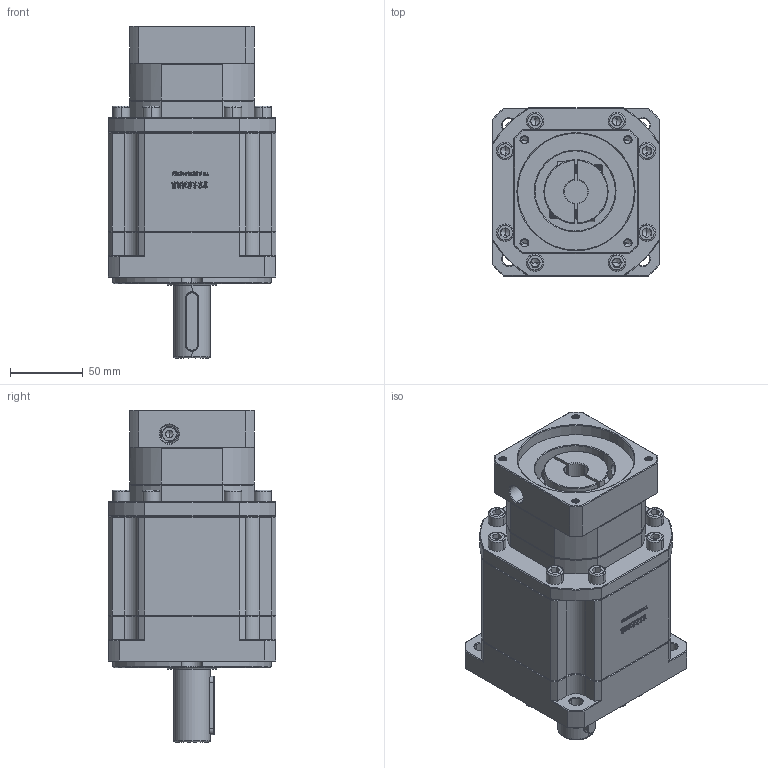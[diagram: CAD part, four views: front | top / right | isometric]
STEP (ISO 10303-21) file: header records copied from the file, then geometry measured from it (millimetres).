
FILE_DESCRIPTION (( 'STEP AP214' ), '1' );
FILE_NAME ('ZB115A-D25-L3-16-80-100-M6.step', '2023-03-03T09:53:29', ( '' ), ( 'Microsoft' ), 'SwSTEP 2.0', 'SolidWorks 2016', '' );
FILE_SCHEMA (( 'AUTOMOTIVE_DESIGN' ));
Length unit declared in the file: millimetre
Products named in the file (1): ZB115A-D25-L3-16-80-100-M6
Bounding box: 115 x 115 x 227.5 mm (x, y, z)
Volume: 1681291.4 mm3; surface area: 145112.1 mm2
Topology: 5 solids, 6 shells, 2133 faces, 5505 edges, 3469 vertices
Faces by surface type: plane 1010, cylinder 425, cone 354, bspline 329, torus 15
Entity records: 112267 total; most frequent: CARTESIAN_POINT 39800, ORIENTED_EDGE 10934, DIRECTION 8961, EDGE_CURVE 5467, VERTEX_POINT 3469, VECTOR 3415, LINE 3415, AXIS2_PLACEMENT_3D 2773
